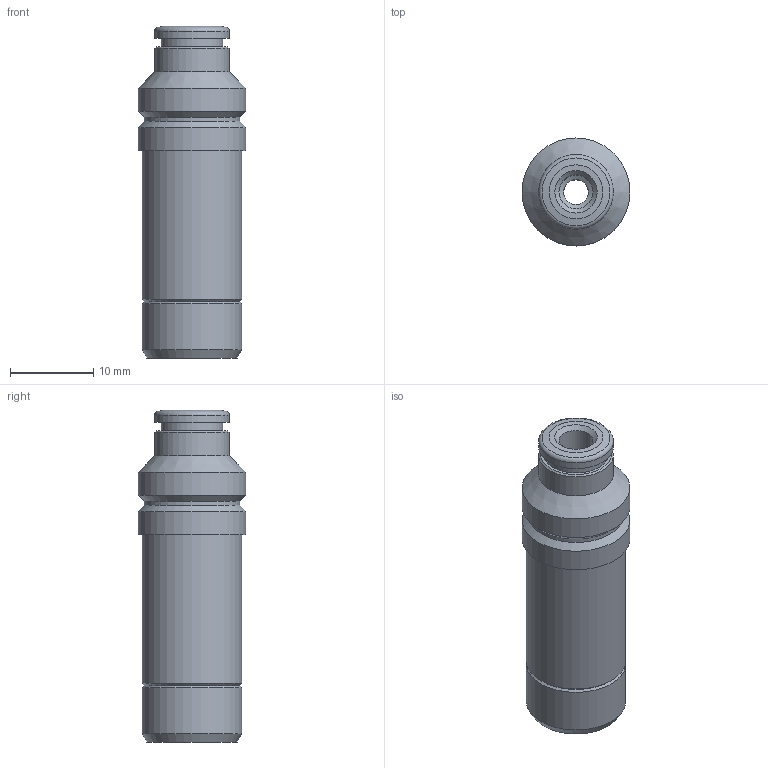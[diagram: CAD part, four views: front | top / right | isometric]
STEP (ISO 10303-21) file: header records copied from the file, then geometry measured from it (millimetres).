
FILE_DESCRIPTION(('Bauteilbeschreibung','HiCAD-Model','HiCAD-STEP-TRANSLATION','Bauteilbeschreibung'),'2;1');
FILE_NAME('B:/ABGLEICH/ZEICHNUNGEN/STEP FÜR INTERNET/STEP/IPSO 08/200809_IPSO_08_4_12.STP','2012-03-13T15:54:37+00:00',('Konstrukteur'),('Konstrukteur Firma GmbH'),' HiCAD neXt 2008, Step 3.1.1401.2J ','HiCAD neXt 2008','confidential');
FILE_SCHEMA(('AUTOMOTIVE_DESIGN { 1 2 10303 214 0 1 1 1 }'));
Length unit declared in the file: millimetre
Products named in the file (3): A00809_IPSO_08_4_12; DR4_1_NEU; R200809_N
Assembly tree (2 placements, depth 2):
  A00809_IPSO_08_4_12
    DR4_1_NEU
    R200809_N
Bounding box: 13 x 13 x 40 mm (x, y, z)
Volume: 3768 mm3; surface area: 2473.3 mm2
Topology: 2 solids, 2 shells, 37 faces, 68 edges, 38 vertices
Faces by surface type: cone 15, cylinder 14, plane 7, torus 1
Full cylindrical faces by diameter (mm): 3 x1, 4.1 x2, 6.4 x1, 7.3 x1, 7.4 x1, 7.6 x1, 9 x2, 11.5 x1, 12 x2, 13 x2
Entity records: 1013 total; most frequent: DIRECTION 156, CARTESIAN_POINT 115, AXIS2_PLACEMENT_3D 78, EDGE_LOOP 74, ORIENTED_EDGE 74, COLOUR_RGB 39, PRESENTATION_STYLE_ASSIGNMENT 39, ADVANCED_FACE 37
